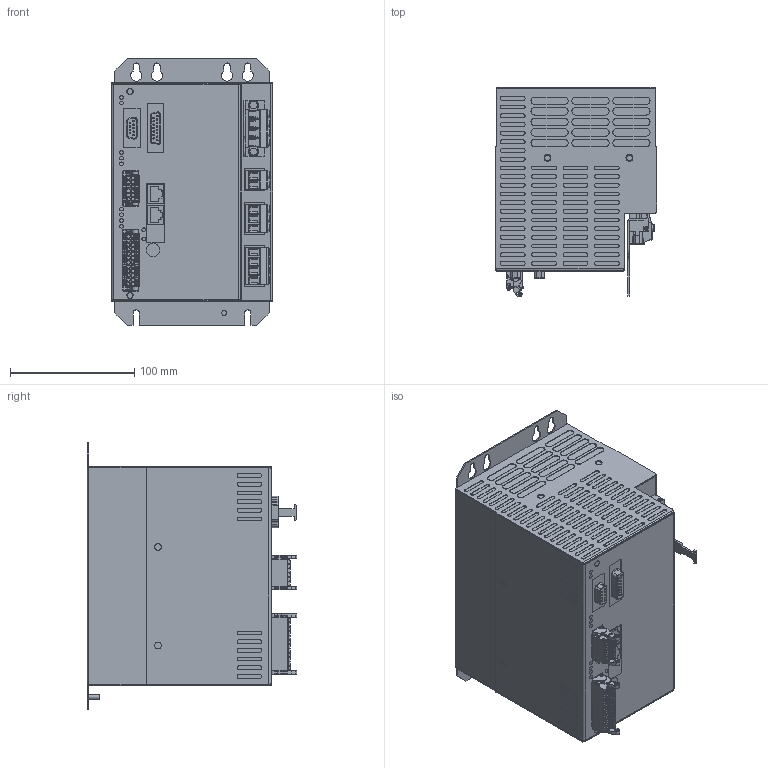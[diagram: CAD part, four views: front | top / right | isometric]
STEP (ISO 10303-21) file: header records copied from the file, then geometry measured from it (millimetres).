
FILE_DESCRIPTION (( 'STEP AP214' ), '1' );
FILE_NAME ('GIN-SAC4x1.STEP', '2015-07-31T05:18:47', ( '' ), ( '' ), 'SwSTEP 2.0', 'SolidWorks 2014', '' );
FILE_SCHEMA (( 'AUTOMOTIVE_DESIGN' ));
Length unit declared in the file: millimetre
Products named in the file (1): GIN-SAC4x1
Bounding box: 129.9 x 169 x 215 mm (x, y, z)
Surface area: 238547.9 mm2 (no closed solid volume)
Topology: 0 solids, 56 shells, 2132 faces, 8325 edges, 6256 vertices
Faces by surface type: plane 1222, cylinder 777, bspline 62, cone 57, torus 14
Full cylindrical faces by diameter (mm): 0.6 x3, 1.143 x24, 3 x46, 4 x14, 5.4 x13, 6.4 x2, 10.5 x1
Entity records: 117204 total; most frequent: CARTESIAN_POINT 26100, DIRECTION 13923, ORIENTED_EDGE 12319, EDGE_CURVE 8099, VERTEX_POINT 6190, VECTOR 5093, LINE 5093, AXIS2_PLACEMENT_3D 4415
